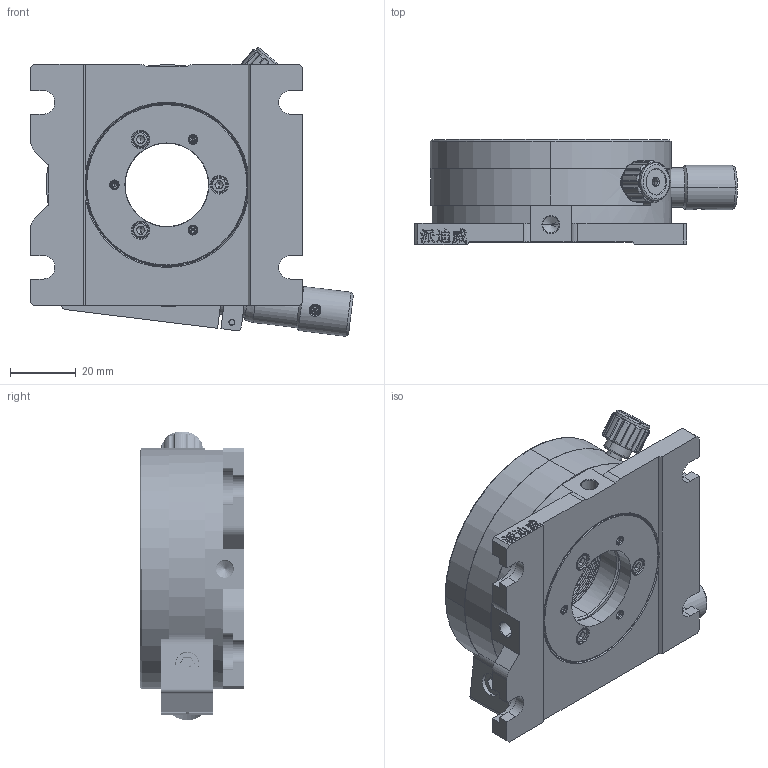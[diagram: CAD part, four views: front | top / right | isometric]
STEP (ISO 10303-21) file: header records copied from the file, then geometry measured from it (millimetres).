
FILE_DESCRIPTION (( 'STEP AP214' ), '1' );
FILE_NAME ('R-TSX-M.STEP', '2023-04-01T04:09:29', ( '' ), ( '' ), 'SwSTEP 2.0', 'SolidWorks 2017', '' );
FILE_SCHEMA (( 'AUTOMOTIVE_DESIGN' ));
Length unit declared in the file: millimetre
Products named in the file (33): R-TSX-M_A13; R-TSX-M_A10; R-TSX-M_A6; R-TSX-M_A2; R-TSX-M_A9; R-TSX-M_A12; SPRING_3X30; M2X13_HM; M3X4_HS; M3X3_HS; R-TSX-M_A1; R-TSX-M_A7; R-TSX-M_A11; M3X6_HM; R-TSX-M_A3; R-TSX-M; R-TSX-M_A8
Assembly tree (16 placements, depth 2):
  R-TSX-M_A13
  R-TSX-M_A10
  R-TSX-M_A6
  R-TSX-M_A2
  R-TSX-M_A9
Bounding box: 97.85 x 31.76 x 87.53 mm (x, y, z)
Volume: 83644.1 mm3; surface area: 59727.7 mm2
Topology: 13 solids, 26 shells, 1740 faces, 5282 edges, 3616 vertices
Faces by surface type: cylinder 734, plane 481, bspline 358, cone 167
Entity records: 206114 total; most frequent: CARTESIAN_POINT 163249, ORIENTED_EDGE 10431, DIRECTION 6133, EDGE_CURVE 5228, VERTEX_POINT 3616, B_SPLINE_CURVE_WITH_KNOTS 2497, VECTOR 2105, LINE 2105
